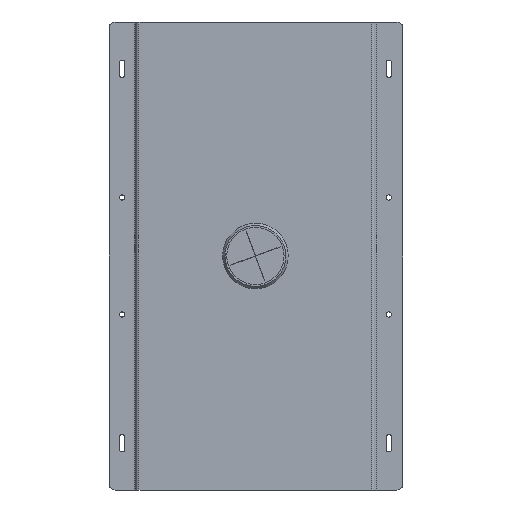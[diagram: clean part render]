
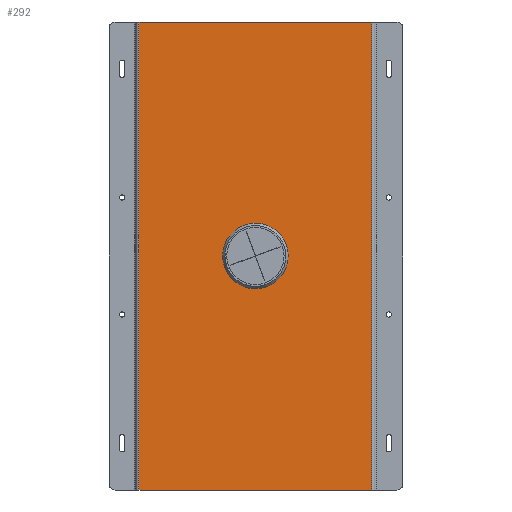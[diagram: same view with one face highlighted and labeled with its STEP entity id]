
A CAD part, front view. The second image highlights one B-rep face of the part: STEP entity #292.
In plain terms, the highlighted planar face has unit normal (0, -1, 0).
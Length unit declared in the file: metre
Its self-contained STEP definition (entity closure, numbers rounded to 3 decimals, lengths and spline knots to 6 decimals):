
#292=ADVANCED_FACE('NONE',(#713,#714),#715,.F.);
#338=EDGE_CURVE('NONE',#783,#783,#784,.T.);
#424=EDGE_CURVE('0:259',#942,#943,#944,.T.);
#426=EDGE_CURVE('0:265',#946,#947,#948,.T.);
#713=FACE_BOUND('',#1286,.T.);
#714=FACE_OUTER_BOUND('',#1287,.T.);
#715=PLANE('',#1288);
#783=VERTEX_POINT('',#1358);
#784=CIRCLE('',#1359,0.0255);
#942=VERTEX_POINT('',#1598);
#943=VERTEX_POINT('',#1599);
#944=LINE('',#1600,#1601);
#946=VERTEX_POINT('',#1604);
#947=VERTEX_POINT('',#1605);
#948=LINE('',#1606,#1607);
#1286=EDGE_LOOP('',(#2166));
#1287=EDGE_LOOP('',(#2167,#2168,#2169,#2170));
#1288=AXIS2_PLACEMENT_3D('',#2171,#2172,#2173);
#1358=CARTESIAN_POINT('',(-0.0255,-0.0012,0.0));
#1359=AXIS2_PLACEMENT_3D('',#2377,#2378,#2379);
#1598=CARTESIAN_POINT('',(-0.0995,-0.0012,0.2));
#1599=CARTESIAN_POINT('',(0.0995,-0.0012,0.2));
#1600=CARTESIAN_POINT('',(0.0985,-0.0012,0.2));
#1601=VECTOR('',#2430,1.0);
#1604=CARTESIAN_POINT('',(-0.0995,-0.0012,-0.2));
#1605=CARTESIAN_POINT('',(0.0995,-0.0012,-0.2));
#1606=CARTESIAN_POINT('',(0.0985,-0.0012,-0.2));
#1607=VECTOR('',#2431,1.0);
#2166=ORIENTED_EDGE('',*,*,#338,.T.);
#2167=ORIENTED_EDGE('',*,*,#424,.F.);
#2168=ORIENTED_EDGE('',*,*,#2732,.T.);
#2169=ORIENTED_EDGE('',*,*,#426,.T.);
#2170=ORIENTED_EDGE('',*,*,#2755,.T.);
#2171=CARTESIAN_POINT('',(0.0985,-0.0012,0.2));
#2172=DIRECTION('',(-0.0,1.0,0.0));
#2173=DIRECTION('',(1.0,0.0,0.0));
#2377=CARTESIAN_POINT('',(0.,-0.0012,0.0));
#2378=DIRECTION('',(0.,1.0,0.0));
#2379=DIRECTION('',(-1.0,0.,0.0));
#2430=DIRECTION('',(1.0,0.0,0.0));
#2431=DIRECTION('',(1.0,0.0,0.0));
#2732=EDGE_CURVE('0:271',#942,#946,#2891,.T.);
#2755=EDGE_CURVE('0:262',#947,#943,#2914,.F.);
#2891=LINE('',#3059,#3060);
#2914=LINE('',#3091,#3092);
#3059=CARTESIAN_POINT('',(-0.0995,-0.0012,0.2));
#3060=VECTOR('',#3264,1.0);
#3091=CARTESIAN_POINT('',(0.0995,-0.0012,0.2));
#3092=VECTOR('',#3300,1.0);
#3264=DIRECTION('',(0.0,0.0,-1.0));
#3300=DIRECTION('',(0.0,0.0,-1.0));
